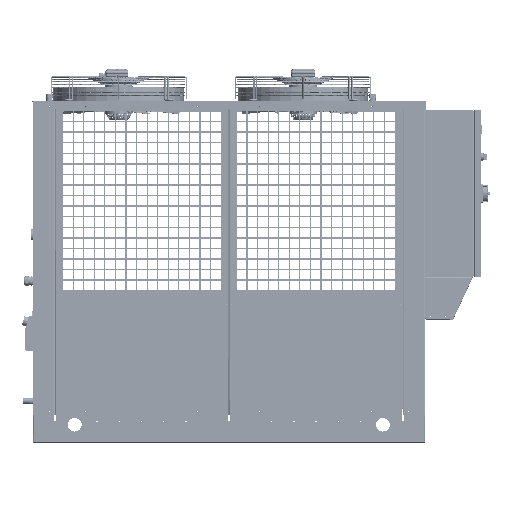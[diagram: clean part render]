
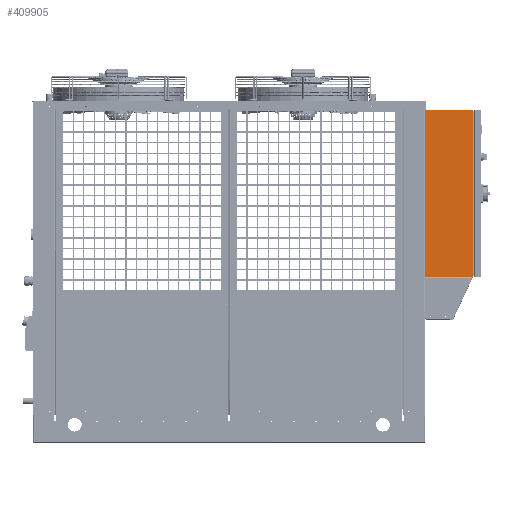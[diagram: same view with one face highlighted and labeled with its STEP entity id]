
A CAD part, top view. The second image highlights one B-rep face of the part: STEP entity #409905.
In plain terms, the highlighted planar face has unit normal (0, 0, 1) as drawn and (-1, 0, 0) by its records, which use the part's own axes.
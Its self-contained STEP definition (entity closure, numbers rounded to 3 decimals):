
#5446 = VERTEX_POINT ( 'NONE', #85368 ) ;
#26074 = LINE ( 'NONE', #217975, #203271 ) ;
#45563 = FACE_OUTER_BOUND ( 'NONE', #110613, .T. ) ;
#61996 = VECTOR ( 'NONE', #303380, 1000. ) ;
#73134 = LINE ( 'NONE', #301906, #61996 ) ;
#85368 = CARTESIAN_POINT ( 'NONE',  ( -200., 300., -200. ) ) ;
#100909 = EDGE_CURVE ( 'NONE', #5446, #158783, #26074, .T. ) ;
#106083 = CARTESIAN_POINT ( 'NONE',  ( -200., -300., -200. ) ) ;
#110613 = EDGE_LOOP ( 'NONE', ( #167339, #129457, #115800, #248728 ) ) ;
#115800 = ORIENTED_EDGE ( 'NONE', *, *, #100909, .T. ) ;
#129457 = ORIENTED_EDGE ( 'NONE', *, *, #365206, .F. ) ;
#153019 = CARTESIAN_POINT ( 'NONE',  ( -200., 316.971, -28.805 ) ) ;
#153992 = VERTEX_POINT ( 'NONE', #438776 ) ;
#158783 = VERTEX_POINT ( 'NONE', #245084 ) ;
#167339 = ORIENTED_EDGE ( 'NONE', *, *, #181266, .F. ) ;
#175099 = AXIS2_PLACEMENT_3D ( 'NONE', #368068, #191604, #439260 ) ;
#181266 = EDGE_CURVE ( 'NONE', #153992, #454089, #337684, .T. ) ;
#190130 = DIRECTION ( 'NONE',  ( 0., -1., 0. ) ) ;
#191604 = DIRECTION ( 'NONE',  ( -1., 0., 0. ) ) ;
#203271 = VECTOR ( 'NONE', #430043, 1000. ) ;
#217975 = CARTESIAN_POINT ( 'NONE',  ( -200., 300., -200. ) ) ;
#243512 = VECTOR ( 'NONE', #190130, 1000. ) ;
#245084 = CARTESIAN_POINT ( 'NONE',  ( -200., -300., -200. ) ) ;
#248728 = ORIENTED_EDGE ( 'NONE', *, *, #311395, .T. ) ;
#297291 = CARTESIAN_POINT ( 'NONE',  ( -200., -300., -28.805 ) ) ;
#301906 = CARTESIAN_POINT ( 'NONE',  ( -200., 300., -200. ) ) ;
#303380 = DIRECTION ( 'NONE',  ( 0., 0., 1. ) ) ;
#311395 = EDGE_CURVE ( 'NONE', #158783, #454089, #322509, .T. ) ;
#322509 = LINE ( 'NONE', #106083, #405674 ) ;
#332377 = PLANE ( 'NONE',  #175099 ) ;
#337684 = LINE ( 'NONE', #153019, #243512 ) ;
#355148 = DIRECTION ( 'NONE',  ( 0., 0., 1. ) ) ;
#365206 = EDGE_CURVE ( 'NONE', #5446, #153992, #73134, .T. ) ;
#368068 = CARTESIAN_POINT ( 'NONE',  ( -200., 300., -200. ) ) ;
#405674 = VECTOR ( 'NONE', #355148, 1000. ) ;
#409905 = ADVANCED_FACE ( 'NONE', ( #45563 ), #332377, .T. ) ;
#430043 = DIRECTION ( 'NONE',  ( 0., -1., 0. ) ) ;
#438776 = CARTESIAN_POINT ( 'NONE',  ( -200., 300., -28.805 ) ) ;
#439260 = DIRECTION ( 'NONE',  ( 0., -1., 0. ) ) ;
#454089 = VERTEX_POINT ( 'NONE', #297291 ) ;
